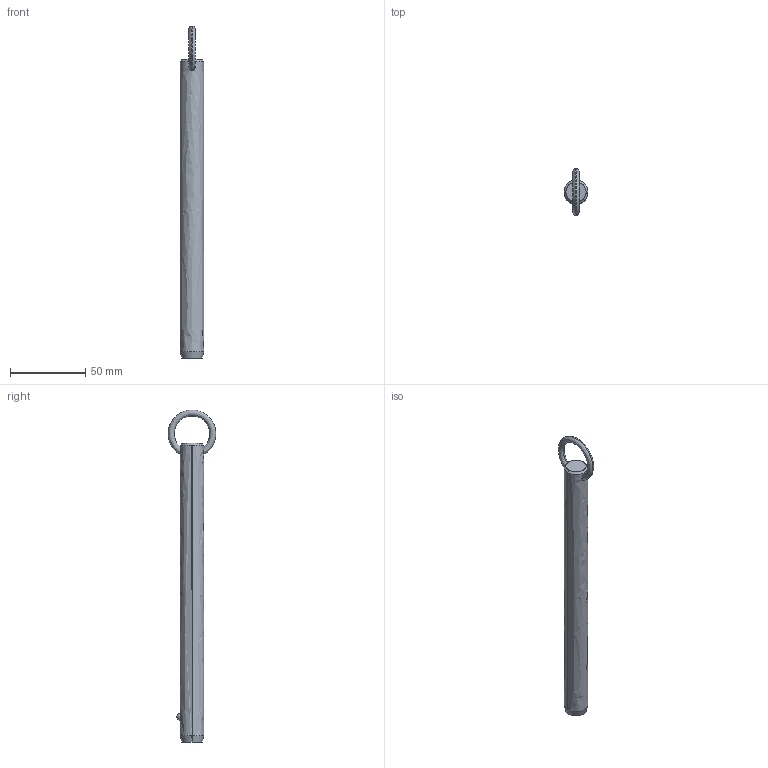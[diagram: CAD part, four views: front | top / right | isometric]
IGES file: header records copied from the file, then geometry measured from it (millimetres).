
Start section: SolidWorks IGES file using analytic representation for surfaces
Global section: file name: C:\Users\liam_\OneDrive\Documents\WORK\Work for WixRoyd\Job Files\J-00019 - Matt Davis CAD Checking\04. CAD Drawings\automotion20190605\P1250.2_v2\P1250.2_v2_20190729_IGES\P1250.062-670.igs; native system: SolidWorks 2017; preprocessor: SolidWorks 2017; author: liam_; date: 190729.234315; units: millimetre
Bounding box: 15.8 x 31.69 x 220.89 mm (x, y, z)
Surface area: 11036.8 mm2 (no closed solid volume)
Topology: 0 solids, 0 shells, 12 faces, 292 edges, 290 vertices
Faces by surface type: revolution 8, bspline 4
